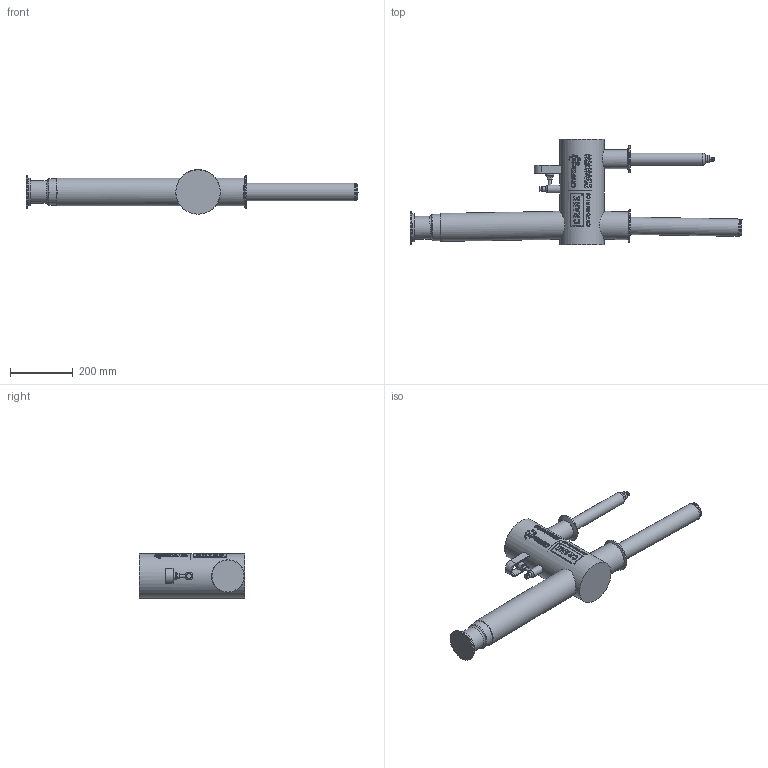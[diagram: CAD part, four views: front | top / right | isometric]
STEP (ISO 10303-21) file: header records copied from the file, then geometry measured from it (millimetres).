
FILE_DESCRIPTION (( 'STEP AP203' ), '1' );
FILE_NAME ('CA00300-TF.step', '2025-12-17T20:01:32', ( '' ), ( '' ), 'SwSTEP 2.0', 'SolidWorks 2023', '' );
FILE_SCHEMA (( 'CONFIG_CONTROL_DESIGN' ));
Length unit declared in the file: inch
Products named in the file (1): CA00300-TF
Bounding box: 1055.38 x 336.55 x 141.3 mm (x, y, z)
Volume: 10109435.3 mm3; surface area: 488941.4 mm2
Topology: 1 solids, 1 shells, 681 faces, 1701 edges, 1125 vertices
Faces by surface type: plane 417, cylinder 182, bspline 53, torus 21, cone 8
Full cylindrical faces by diameter (mm): 1.494 x1, 1.636 x1, 1.778 x1, 1.935 x4, 2.039 x1, 2.302 x1, 2.967 x1, 3.071 x1, 3.409 x1, 3.632 x1, 3.807 x1, 4.009 x1, 4.573 x1, 6.177 x1, 7.63 x1, 7.722 x1, 9.232 x1, 10.236 x2, 10.287 x1, 10.749 x1, 12.7 x1, 15.748 x2, 23.012 x1, 24.638 x1, 25.4 x1, 26.873 x1, 30.988 x1, 38.227 x1, 48.59 x1, 50.648 x1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
Entity records: 28340 total; most frequent: CARTESIAN_POINT 13653, ORIENTED_EDGE 3198, DIRECTION 2570, EDGE_CURVE 1599, VERTEX_POINT 1109, AXIS2_PLACEMENT_3D 879, EDGE_LOOP 872, VECTOR 812
